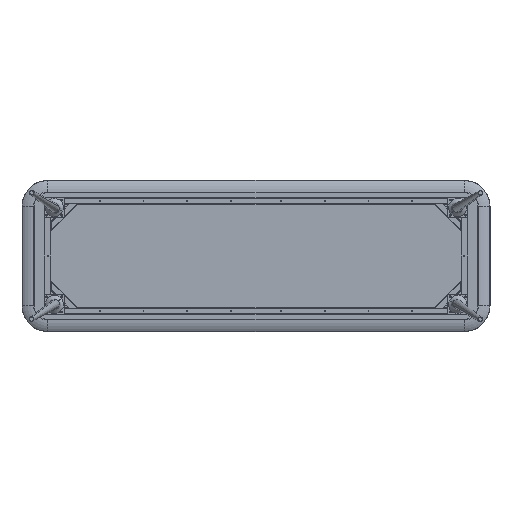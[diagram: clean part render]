
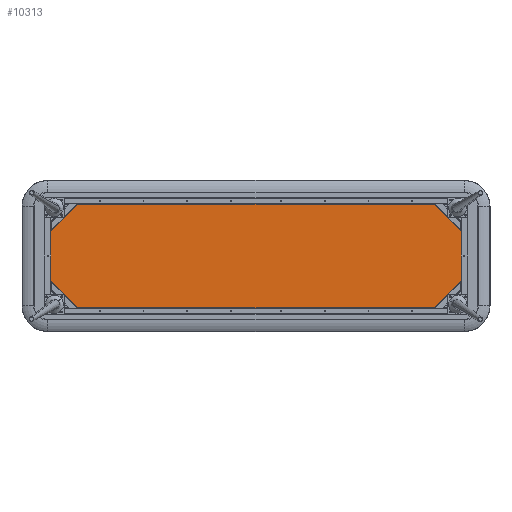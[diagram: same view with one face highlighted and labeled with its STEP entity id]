
A CAD part, front view. The second image highlights one B-rep face of the part: STEP entity #10313.
In plain terms, the highlighted planar face has unit normal (0, -1, 0).
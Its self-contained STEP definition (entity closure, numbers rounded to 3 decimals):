
#1046 = VERTEX_POINT ( 'NONE', #14941 ) ;
#1218 = EDGE_CURVE ( 'NONE', #13194, #12926, #3573, .T. ) ;
#1548 = DIRECTION ( 'NONE',  ( -1., 0., 0. ) ) ;
#2078 = VECTOR ( 'NONE', #9283, 1000. ) ;
#2395 = CARTESIAN_POINT ( 'NONE',  ( 1607.713, 138.43, 214.607 ) ) ;
#2408 = CARTESIAN_POINT ( 'NONE',  ( -1110.287, 138.43, 214.607 ) ) ;
#2580 = EDGE_CURVE ( 'NONE', #8036, #18384, #7264, .T. ) ;
#2912 = CARTESIAN_POINT ( 'NONE',  ( 248.713, 138.43, 381.607 ) ) ;
#3048 = EDGE_CURVE ( 'NONE', #15629, #20805, #20016, .T. ) ;
#3085 = EDGE_CURVE ( 'NONE', #12926, #1046, #20476, .T. ) ;
#3573 = LINE ( 'NONE', #10111, #17369 ) ;
#3827 = VERTEX_POINT ( 'NONE', #16632 ) ;
#4675 = LINE ( 'NONE', #19739, #22029 ) ;
#5232 = ORIENTED_EDGE ( 'NONE', *, *, #8449, .T. ) ;
#5663 = CARTESIAN_POINT ( 'NONE',  ( 1431.21, 138.43, 37.607 ) ) ;
#5805 = CARTESIAN_POINT ( 'NONE',  ( -1110.287, 138.43, 548.607 ) ) ;
#6379 = ORIENTED_EDGE ( 'NONE', *, *, #21401, .T. ) ;
#6729 = ORIENTED_EDGE ( 'NONE', *, *, #1218, .T. ) ;
#6980 = CARTESIAN_POINT ( 'NONE',  ( 1607.713, 138.43, 548.607 ) ) ;
#7264 = LINE ( 'NONE', #6980, #11884 ) ;
#7272 = ORIENTED_EDGE ( 'NONE', *, *, #11278, .T. ) ;
#7327 = CARTESIAN_POINT ( 'NONE',  ( 1607.713, 138.43, 548.607 ) ) ;
#7634 = CARTESIAN_POINT ( 'NONE',  ( 1607.713, 138.43, 548.607 ) ) ;
#7770 = CARTESIAN_POINT ( 'NONE',  ( -933.784, 138.43, 37.607 ) ) ;
#8036 = VERTEX_POINT ( 'NONE', #10766 ) ;
#8313 = LINE ( 'NONE', #2395, #17018 ) ;
#8449 = EDGE_CURVE ( 'NONE', #18384, #13194, #15207, .T. ) ;
#9143 = EDGE_LOOP ( 'NONE', ( #12660, #5232, #6729, #22186, #6379, #20531, #7272, #15823 ) ) ;
#9208 = CARTESIAN_POINT ( 'NONE',  ( -1110.287, 138.43, 214.607 ) ) ;
#9283 = DIRECTION ( 'NONE',  ( -0.706, 0., -0.708 ) ) ;
#9330 = DIRECTION ( 'NONE',  ( 0., 0., -1. ) ) ;
#9821 = DIRECTION ( 'NONE',  ( 0., 1., 0. ) ) ;
#10087 = EDGE_CURVE ( 'NONE', #3827, #8036, #8313, .T. ) ;
#10111 = CARTESIAN_POINT ( 'NONE',  ( -933.784, 138.43, 725.607 ) ) ;
#10205 = FACE_OUTER_BOUND ( 'NONE', #9143, .T. ) ;
#10313 = ADVANCED_FACE ( 'NONE', ( #10205 ), #16732, .F. ) ;
#10766 = CARTESIAN_POINT ( 'NONE',  ( 1607.713, 138.43, 214.607 ) ) ;
#10962 = DIRECTION ( 'NONE',  ( 0.706, 0., -0.708 ) ) ;
#11278 = EDGE_CURVE ( 'NONE', #20805, #3827, #21652, .T. ) ;
#11884 = VECTOR ( 'NONE', #20887, 1000. ) ;
#12660 = ORIENTED_EDGE ( 'NONE', *, *, #2580, .T. ) ;
#12888 = DIRECTION ( 'NONE',  ( -0.706, 0., 0.708 ) ) ;
#12926 = VERTEX_POINT ( 'NONE', #20609 ) ;
#13194 = VERTEX_POINT ( 'NONE', #21354 ) ;
#14482 = DIRECTION ( 'NONE',  ( 0.706, 0., 0.708 ) ) ;
#14941 = CARTESIAN_POINT ( 'NONE',  ( -1110.287, 138.43, 548.607 ) ) ;
#15207 = LINE ( 'NONE', #7634, #19263 ) ;
#15629 = VERTEX_POINT ( 'NONE', #2408 ) ;
#15823 = ORIENTED_EDGE ( 'NONE', *, *, #10087, .T. ) ;
#16421 = VECTOR ( 'NONE', #10962, 1000. ) ;
#16632 = CARTESIAN_POINT ( 'NONE',  ( 1431.21, 138.43, 37.607 ) ) ;
#16732 = PLANE ( 'NONE',  #17823 ) ;
#17018 = VECTOR ( 'NONE', #14482, 1000. ) ;
#17023 = VECTOR ( 'NONE', #17793, 1000. ) ;
#17369 = VECTOR ( 'NONE', #1548, 1000. ) ;
#17793 = DIRECTION ( 'NONE',  ( 1., 0., 0. ) ) ;
#17823 = AXIS2_PLACEMENT_3D ( 'NONE', #2912, #9821, #21976 ) ;
#18384 = VERTEX_POINT ( 'NONE', #7327 ) ;
#19263 = VECTOR ( 'NONE', #12888, 1000. ) ;
#19739 = CARTESIAN_POINT ( 'NONE',  ( -1110.287, 138.43, 548.607 ) ) ;
#20016 = LINE ( 'NONE', #9208, #16421 ) ;
#20476 = LINE ( 'NONE', #5805, #2078 ) ;
#20531 = ORIENTED_EDGE ( 'NONE', *, *, #3048, .T. ) ;
#20609 = CARTESIAN_POINT ( 'NONE',  ( -933.784, 138.43, 725.607 ) ) ;
#20805 = VERTEX_POINT ( 'NONE', #7770 ) ;
#20887 = DIRECTION ( 'NONE',  ( 0., 0., 1. ) ) ;
#21354 = CARTESIAN_POINT ( 'NONE',  ( 1431.21, 138.43, 725.607 ) ) ;
#21401 = EDGE_CURVE ( 'NONE', #1046, #15629, #4675, .T. ) ;
#21652 = LINE ( 'NONE', #5663, #17023 ) ;
#21976 = DIRECTION ( 'NONE',  ( 0., 0., 1. ) ) ;
#22029 = VECTOR ( 'NONE', #9330, 1000. ) ;
#22186 = ORIENTED_EDGE ( 'NONE', *, *, #3085, .T. ) ;
